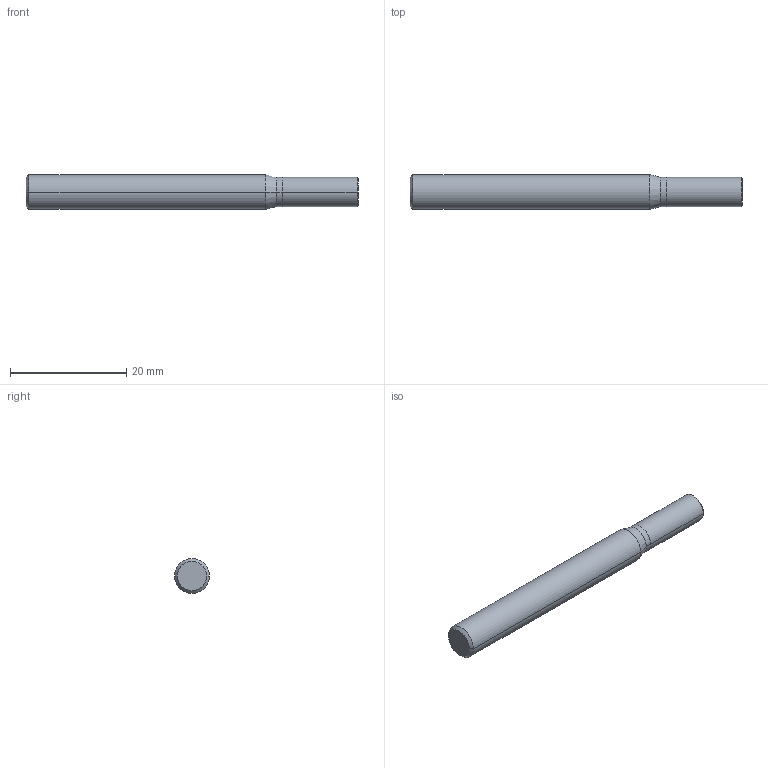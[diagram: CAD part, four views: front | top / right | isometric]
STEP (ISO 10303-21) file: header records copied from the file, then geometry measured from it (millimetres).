
FILE_DESCRIPTION (( 'STEP AP214' ), '1' );
FILE_NAME ('GMF56050.STEP', '2018-03-05T23:17:28', ( '' ), ( '' ), 'SwSTEP 2.0', 'SolidWorks 2014', '' );
FILE_SCHEMA (( 'AUTOMOTIVE_DESIGN' ));
Length unit declared in the file: millimetre
Products named in the file (1): GMF56050
Bounding box: 57 x 6 x 6 mm (x, y, z)
Volume: 1480 mm3; surface area: 1108.6 mm2
Topology: 2 solids, 2 shells, 16 faces, 28 edges, 16 vertices
Faces by surface type: cylinder 6, cone 6, plane 4
Entity records: 493 total; most frequent: DIRECTION 78, CARTESIAN_POINT 61, ORIENTED_EDGE 56, AXIS2_PLACEMENT_3D 33, EDGE_CURVE 28, VERTEX_POINT 16, CIRCLE 16, FACE_OUTER_BOUND 16
